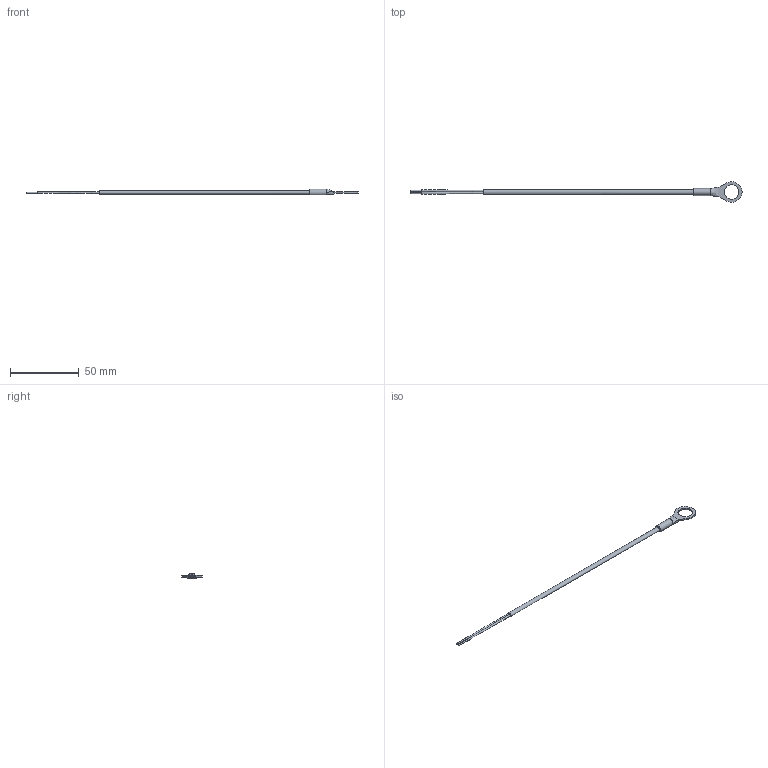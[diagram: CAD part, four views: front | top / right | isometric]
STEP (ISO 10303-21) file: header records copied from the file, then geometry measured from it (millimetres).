
FILE_DESCRIPTION(/* description */ (''),/* implementation_level */ '2;1');
FILE_NAME(/* name */ 'C:\Users\Justin\Documents\CAD Drawings\The Sensor Connection\3D\CHT\WS\CHT-WS-072-0010-KK-N.ipt.step',/* time_stamp */ '2018-12-27T10:54:55-05:00',/* author */ ('JN'),/* organization */ (''),/* preprocessor_version */ 'ST-DEVELOPER v17.2',/* originating_system */ 'Autodesk Inventor 2019',/* authorisation */ '');
FILE_SCHEMA (('AUTOMOTIVE_DESIGN { 1 0 10303 214 3 1 1 }'));
Length unit declared in the file: inch
Products named in the file (1): CHT-WS-072-0010-KK-N
Bounding box: 240.62 x 14.98 x 4.18 mm (x, y, z)
Volume: 1542.4 mm3; surface area: 2656 mm2
Topology: 4 solids, 4 shells, 29 faces, 60 edges, 40 vertices
Faces by surface type: plane 16, bspline 8, cylinder 5
Full cylindrical faces by diameter (mm): 0.762 x2, 10.516 x1
Entity records: 1045 total; most frequent: CARTESIAN_POINT 376, ORIENTED_EDGE 112, DIRECTION 112, EDGE_CURVE 56, AXIS2_PLACEMENT_3D 44, VERTEX_POINT 38, EDGE_LOOP 36, FACE_OUTER_BOUND 29
